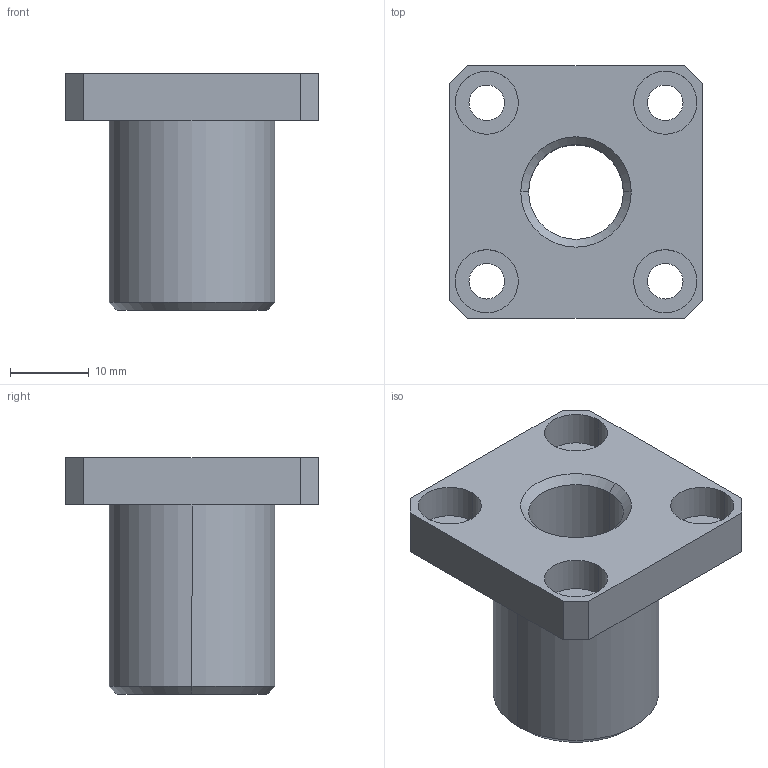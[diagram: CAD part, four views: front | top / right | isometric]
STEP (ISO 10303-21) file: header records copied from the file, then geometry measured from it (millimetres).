
FILE_DESCRIPTION (( 'STEP AP214' ), '1' );
FILE_NAME ('2.7047 Lineaarilaakeri LMK12UU.STEP', '2024-06-24T10:32:53', ( '' ), ( '' ), 'SwSTEP 2.0', 'SolidWorks 2024', '' );
FILE_SCHEMA (( 'AUTOMOTIVE_DESIGN' ));
Length unit declared in the file: millimetre
Products named in the file (1): 2.7047 Lineaarilaakeri LMK12UU
Bounding box: 32 x 32 x 30 mm (x, y, z)
Volume: 9961.9 mm3; surface area: 5595.4 mm2
Topology: 1 solids, 1 shells, 39 faces, 92 edges, 60 vertices
Faces by surface type: cylinder 20, plane 15, cone 4
Entity records: 1181 total; most frequent: DIRECTION 216, CARTESIAN_POINT 192, ORIENTED_EDGE 184, EDGE_CURVE 92, AXIS2_PLACEMENT_3D 84, VERTEX_POINT 60, EDGE_LOOP 54, LINE 48
